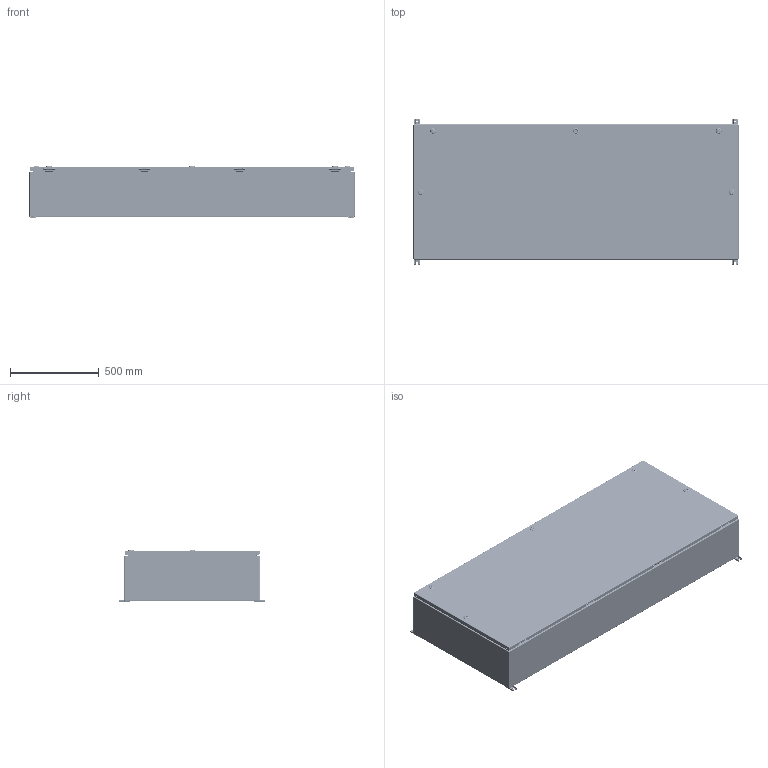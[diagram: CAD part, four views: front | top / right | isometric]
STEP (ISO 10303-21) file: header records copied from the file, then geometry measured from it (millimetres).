
FILE_DESCRIPTION(/* description */ ('1412BTCU 1000A - 4 Wires x 72" Assembly'),/* implementation_level */ '2;1');
FILE_NAME(/* name */ 'C:\Vault_Workspace\Inventor_Dwg\BoxCad\Result\1412BTCU061004\e-mail\3D\1412BTCU061004.stp',/* time_stamp */ '2022-09-13T09:25:10-04:00',/* author */ ('BoxCad'),/* organization */ (''),/* preprocessor_version */ 'ST-DEVELOPER v18.1',/* originating_system */ 'Autodesk Inventor 2020',/* authorisation */ '');
FILE_SCHEMA (('AUTOMOTIVE_DESIGN { 1 0 10303 214 3 1 1 }'));
Products named in the file (54): 1412BTCU061004; 1412BTCU061004B; 1412BTCU061004B-P; STK-Q-16005; 1412BTCU061004C; 1412BTCU061004C-P; 1412BTCU061004G; STK-Q-16080; STK-K-09800; STK-Q-33014; STK-Q-90398; STK-Q-40095; STK-Q-63410; STK-S-00100; STK-P-02400S; STK-A-880SCQ4-SL-1; STK-A-880SCQ4-SL-2; STK-A-880SCQ4-SL-3; STK-A-880SCQ4-SL-4; STK-A-880SCQ4-SL-5; STK-Q-78110; STK-Q-78120; STK-Q-78145; STK-Q-03200; STK-Q-78125; STK-Q-78141; STK-Q-90390; STK-Q-78160; 1412BTCU061004IP1; 1412BTCU061004IP1-P; STK-P-02401S; STK-Q-07610; STK-A-67400; STK-Q-67400; STK-G-22300; STK-Q-67420; STK-Q-40800; STK-Q-67430; STK-Q-07310; 1412BTCU061004BAR1-P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
Assembly tree (146 placements, depth 4):
  1412BTCU061004
    1412BTCU061004B
      1412BTCU061004B-P
      STK-Q-16080
      STK-Q-16005  x8
      STK-S-00100
      STK-P-02400S
    1412BTCU061004C
      1412BTCU061004C-P
      1412BTCU061004G
      STK-Q-16080
      STK-K-09800  x4
        STK-Q-33014
        STK-Q-90398
        STK-Q-40095
        STK-Q-63410
      STK-S-00100
      STK-P-02400S
      STK-A-880SCQ4-SL-1
        STK-Q-78110
        STK-Q-78120
        STK-Q-78145
        STK-Q-03200
        STK-Q-78125
        STK-Q-78141
        STK-Q-90390
        STK-Q-78160
      STK-A-880SCQ4-SL-2
        STK-Q-78110
        STK-Q-78120
        STK-Q-78145
        STK-Q-03200
        STK-Q-78125
        STK-Q-78141
        STK-Q-90390
        STK-Q-78160
      STK-A-880SCQ4-SL-3
        STK-Q-78110
        STK-Q-78120
        STK-Q-78145
        STK-Q-03200
        STK-Q-78125
        STK-Q-78141
        STK-Q-90390
        STK-Q-78160
      STK-A-880SCQ4-SL-4
        STK-Q-78110
        STK-Q-78120
        STK-Q-78145
        STK-Q-03200
        STK-Q-78125
        STK-Q-78141
        STK-Q-90390
        STK-Q-78160
      STK-A-880SCQ4-SL-5
        STK-Q-78110
        STK-Q-78120
        STK-Q-78145
        STK-Q-03200
        STK-Q-78125
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Bounding box: 1828.8 x 819.15 x 294.2 mm (x, y, z)
Volume: 14161900.3 mm3; surface area: 12522459.8 mm2
Topology: 216 solids, 216 shells, 31615 faces, 82586 edges, 51326 vertices
Faces by surface type: plane 11544, bspline 8527, cylinder 7960, torus 2423, sphere 702, cone 459
Full cylindrical faces by diameter (mm): 0.75 x10, 0.762 x10, 1 x16, 1.1 x16, 3.2 x8, 4.5 x48, 4.521 x16, 4.85 x32, 4.95 x8, 5.1 x59, 5.6 x4, 5.9 x94, 6.65 x20, 6.85 x72, 7.3 x4, 7.366 x4, 7.8 x492, 7.9 x8, 8 x34, 8.25 x24, 8.382 x4, 8.6 x12, 9.6 x5, 9.7 x48, 9.906 x4, 10 x5, 10.312 x2, 11.5 x24, 12 x16, 12.7 x2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
Entity records: 200050 total; most frequent: CARTESIAN_POINT 79445, ORIENTED_EDGE 26616, DIRECTION 21620, EDGE_CURVE 13308, VERTEX_POINT 8429, AXIS2_PLACEMENT_3D 7589, LINE 6442, VECTOR 6442
